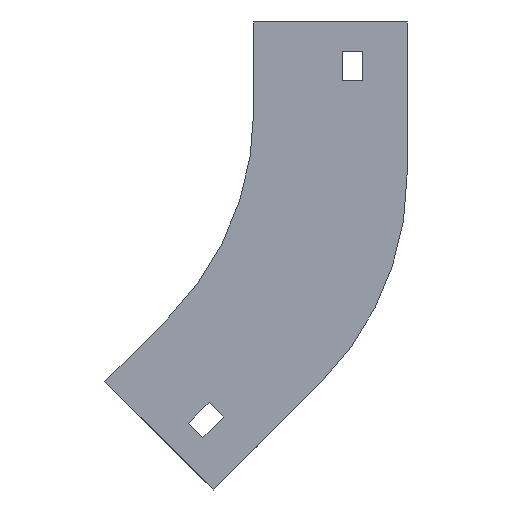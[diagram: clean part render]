
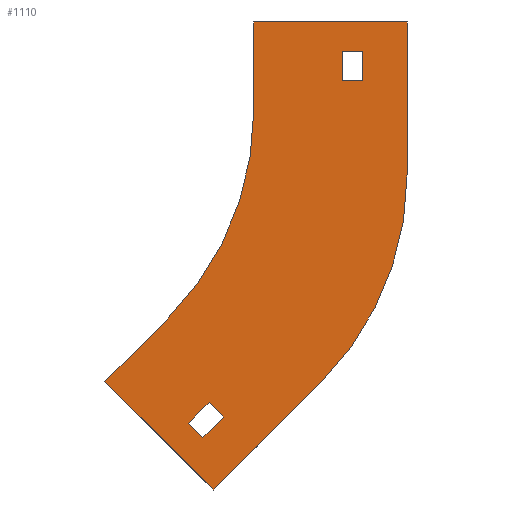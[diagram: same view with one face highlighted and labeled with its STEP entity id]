
A CAD part, left-side view. The second image highlights one B-rep face of the part: STEP entity #1110.
In plain terms, the highlighted planar face has unit normal (-1, 0, 0).
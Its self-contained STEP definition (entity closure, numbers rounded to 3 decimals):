
#13 = EDGE_CURVE ( 'NONE', #1086, #685, #455, .T. ) ;
#31 = CIRCLE ( 'NONE', #914, 100. ) ;
#33 = LINE ( 'NONE', #354, #1094 ) ;
#53 = DIRECTION ( 'NONE',  ( 0., 0.707, -0.707 ) ) ;
#55 = VERTEX_POINT ( 'NONE', #1254 ) ;
#57 = VECTOR ( 'NONE', #843, 1000. ) ;
#81 = CARTESIAN_POINT ( 'NONE',  ( -152., 10.197, -133.945 ) ) ;
#86 = VERTEX_POINT ( 'NONE', #1037 ) ;
#91 = CARTESIAN_POINT ( 'NONE',  ( -152., 29.289, -100.711 ) ) ;
#101 = ORIENTED_EDGE ( 'NONE', *, *, #773, .F. ) ;
#108 = EDGE_LOOP ( 'NONE', ( #577, #1243, #187, #1053 ) ) ;
#111 = CARTESIAN_POINT ( 'NONE',  ( -152., 48., -51.539 ) ) ;
#133 = AXIS2_PLACEMENT_3D ( 'NONE', #530, #282, #184 ) ;
#158 = CARTESIAN_POINT ( 'NONE',  ( -152., 22.218, -136.066 ) ) ;
#169 = CARTESIAN_POINT ( 'NONE',  ( -152., -22.711, -122.25 ) ) ;
#184 = DIRECTION ( 'NONE',  ( 0., 0., -1. ) ) ;
#186 = CARTESIAN_POINT ( 'NONE',  ( -152., -37., -10. ) ) ;
#187 = ORIENTED_EDGE ( 'NONE', *, *, #229, .T. ) ;
#191 = AXIS2_PLACEMENT_3D ( 'NONE', #1135, #793, #1218 ) ;
#196 = EDGE_LOOP ( 'NONE', ( #1318, #703, #943, #505 ) ) ;
#214 = CARTESIAN_POINT ( 'NONE',  ( -152., 13.733, -158.693 ) ) ;
#224 = DIRECTION ( 'NONE',  ( 0., 0., -1. ) ) ;
#229 = EDGE_CURVE ( 'NONE', #1255, #411, #1199, .T. ) ;
#253 = ORIENTED_EDGE ( 'NONE', *, *, #1134, .F. ) ;
#258 = CIRCLE ( 'NONE', #191, 100. ) ;
#259 = CARTESIAN_POINT ( 'NONE',  ( -152., 17.269, -141.016 ) ) ;
#282 = DIRECTION ( 'NONE',  ( 1., 0., 0. ) ) ;
#297 = VERTEX_POINT ( 'NONE', #901 ) ;
#317 = VECTOR ( 'NONE', #549, 1000. ) ;
#324 = CARTESIAN_POINT ( 'NONE',  ( -152., 22.218, -136.066 ) ) ;
#331 = DIRECTION ( 'NONE',  ( 0., -1., 0. ) ) ;
#351 = CARTESIAN_POINT ( 'NONE',  ( -152., -52., -51.539 ) ) ;
#354 = CARTESIAN_POINT ( 'NONE',  ( -152., 50.503, -121.924 ) ) ;
#369 = EDGE_CURVE ( 'NONE', #588, #616, #1012, .T. ) ;
#373 = ORIENTED_EDGE ( 'NONE', *, *, #613, .F. ) ;
#375 = VECTOR ( 'NONE', #544, 1000. ) ;
#376 = CARTESIAN_POINT ( 'NONE',  ( -152., -30., -10. ) ) ;
#411 = VERTEX_POINT ( 'NONE', #704 ) ;
#418 = ORIENTED_EDGE ( 'NONE', *, *, #719, .F. ) ;
#422 = DIRECTION ( 'NONE',  ( 0., 0.707, -0.707 ) ) ;
#430 = VERTEX_POINT ( 'NONE', #929 ) ;
#444 = EDGE_CURVE ( 'NONE', #685, #55, #1344, .T. ) ;
#446 = CARTESIAN_POINT ( 'NONE',  ( -152., -52., 0. ) ) ;
#455 = LINE ( 'NONE', #582, #884 ) ;
#461 = DIRECTION ( 'NONE',  ( 0., 0.707, 0.707 ) ) ;
#501 = FACE_OUTER_BOUND ( 'NONE', #545, .T. ) ;
#505 = ORIENTED_EDGE ( 'NONE', *, *, #1346, .F. ) ;
#518 = VECTOR ( 'NONE', #422, 1000. ) ;
#525 = EDGE_CURVE ( 'NONE', #411, #297, #1083, .T. ) ;
#530 = CARTESIAN_POINT ( 'NONE',  ( -152., 100., -30. ) ) ;
#537 = EDGE_CURVE ( 'NONE', #1173, #1080, #1403, .T. ) ;
#544 = DIRECTION ( 'NONE',  ( 0., -0.707, -0.707 ) ) ;
#545 = EDGE_LOOP ( 'NONE', ( #373, #101, #1139, #253, #418, #1050, #1223, #939 ) ) ;
#549 = DIRECTION ( 'NONE',  ( 0., -0.707, 0.707 ) ) ;
#577 = ORIENTED_EDGE ( 'NONE', *, *, #1240, .T. ) ;
#582 = CARTESIAN_POINT ( 'NONE',  ( -152., 15.147, -128.995 ) ) ;
#588 = VERTEX_POINT ( 'NONE', #1162 ) ;
#610 = LINE ( 'NONE', #376, #875 ) ;
#613 = EDGE_CURVE ( 'NONE', #430, #588, #654, .T. ) ;
#616 = VERTEX_POINT ( 'NONE', #1069 ) ;
#635 = EDGE_CURVE ( 'NONE', #616, #1173, #31, .T. ) ;
#654 = LINE ( 'NONE', #446, #1068 ) ;
#685 = VERTEX_POINT ( 'NONE', #1316 ) ;
#703 = ORIENTED_EDGE ( 'NONE', *, *, #444, .F. ) ;
#704 = CARTESIAN_POINT ( 'NONE',  ( -152., -37., -20. ) ) ;
#715 = VECTOR ( 'NONE', #802, 1000. ) ;
#719 = EDGE_CURVE ( 'NONE', #1080, #86, #33, .T. ) ;
#738 = LINE ( 'NONE', #853, #1078 ) ;
#765 = VERTEX_POINT ( 'NONE', #907 ) ;
#773 = EDGE_CURVE ( 'NONE', #765, #430, #810, .T. ) ;
#779 = EDGE_CURVE ( 'NONE', #1038, #765, #258, .T. ) ;
#793 = DIRECTION ( 'NONE',  ( -1., 0., 0. ) ) ;
#802 = DIRECTION ( 'NONE',  ( 0., 0., 1. ) ) ;
#810 = LINE ( 'NONE', #1011, #715 ) ;
#832 = FACE_BOUND ( 'NONE', #196, .T. ) ;
#843 = DIRECTION ( 'NONE',  ( 0., 1., 0. ) ) ;
#853 = CARTESIAN_POINT ( 'NONE',  ( -152., -30., -10. ) ) ;
#875 = VECTOR ( 'NONE', #1167, 1000. ) ;
#881 = VERTEX_POINT ( 'NONE', #259 ) ;
#884 = VECTOR ( 'NONE', #461, 1000. ) ;
#897 = VECTOR ( 'NONE', #53, 1000. ) ;
#901 = CARTESIAN_POINT ( 'NONE',  ( -152., -30., -20. ) ) ;
#907 = CARTESIAN_POINT ( 'NONE',  ( -152., 0., -30. ) ) ;
#914 = AXIS2_PLACEMENT_3D ( 'NONE', #111, #967, #1210 ) ;
#929 = CARTESIAN_POINT ( 'NONE',  ( -152., 0., 0. ) ) ;
#937 = EDGE_CURVE ( 'NONE', #55, #881, #1063, .T. ) ;
#939 = ORIENTED_EDGE ( 'NONE', *, *, #369, .F. ) ;
#943 = ORIENTED_EDGE ( 'NONE', *, *, #13, .F. ) ;
#952 = CARTESIAN_POINT ( 'NONE',  ( -152., -37., -10. ) ) ;
#967 = DIRECTION ( 'NONE',  ( 1., 0., 0. ) ) ;
#977 = CARTESIAN_POINT ( 'NONE',  ( -152., -30., -20. ) ) ;
#1001 = VECTOR ( 'NONE', #1102, 1000. ) ;
#1007 = CARTESIAN_POINT ( 'NONE',  ( -152., -30., -10. ) ) ;
#1011 = CARTESIAN_POINT ( 'NONE',  ( -152., 0., 0. ) ) ;
#1012 = LINE ( 'NONE', #351, #1085 ) ;
#1026 = DIRECTION ( 'NONE',  ( 0., 0.707, 0.707 ) ) ;
#1037 = CARTESIAN_POINT ( 'NONE',  ( -152., 50.503, -121.924 ) ) ;
#1038 = VERTEX_POINT ( 'NONE', #91 ) ;
#1046 = DIRECTION ( 'NONE',  ( 0., -1., 0. ) ) ;
#1050 = ORIENTED_EDGE ( 'NONE', *, *, #537, .F. ) ;
#1053 = ORIENTED_EDGE ( 'NONE', *, *, #525, .T. ) ;
#1063 = LINE ( 'NONE', #324, #375 ) ;
#1068 = VECTOR ( 'NONE', #331, 1000. ) ;
#1069 = CARTESIAN_POINT ( 'NONE',  ( -152., -52., -51.539 ) ) ;
#1078 = VECTOR ( 'NONE', #1046, 1000. ) ;
#1080 = VERTEX_POINT ( 'NONE', #1253 ) ;
#1083 = LINE ( 'NONE', #977, #57 ) ;
#1085 = VECTOR ( 'NONE', #224, 1000. ) ;
#1086 = VERTEX_POINT ( 'NONE', #81 ) ;
#1087 = LINE ( 'NONE', #1194, #1319 ) ;
#1089 = EDGE_CURVE ( 'NONE', #1340, #1255, #738, .T. ) ;
#1094 = VECTOR ( 'NONE', #1026, 1000. ) ;
#1095 = CARTESIAN_POINT ( 'NONE',  ( -152., 17.269, -141.016 ) ) ;
#1102 = DIRECTION ( 'NONE',  ( 0., 0., -1. ) ) ;
#1110 = ADVANCED_FACE ( 'NONE', ( #501, #1178, #832 ), #1258, .F. ) ;
#1134 = EDGE_CURVE ( 'NONE', #86, #1038, #1087, .T. ) ;
#1135 = CARTESIAN_POINT ( 'NONE',  ( -152., 100., -30. ) ) ;
#1139 = ORIENTED_EDGE ( 'NONE', *, *, #779, .F. ) ;
#1162 = CARTESIAN_POINT ( 'NONE',  ( -152., -52., 0. ) ) ;
#1167 = DIRECTION ( 'NONE',  ( 0., 0., 1. ) ) ;
#1173 = VERTEX_POINT ( 'NONE', #169 ) ;
#1178 = FACE_BOUND ( 'NONE', #108, .T. ) ;
#1194 = CARTESIAN_POINT ( 'NONE',  ( -152., 29.289, -100.711 ) ) ;
#1199 = LINE ( 'NONE', #186, #1001 ) ;
#1200 = DIRECTION ( 'NONE',  ( 0., -0.707, 0.707 ) ) ;
#1210 = DIRECTION ( 'NONE',  ( 0., 0., 1. ) ) ;
#1218 = DIRECTION ( 'NONE',  ( 0., 0., -1. ) ) ;
#1220 = LINE ( 'NONE', #1095, #317 ) ;
#1223 = ORIENTED_EDGE ( 'NONE', *, *, #635, .F. ) ;
#1240 = EDGE_CURVE ( 'NONE', #297, #1340, #610, .T. ) ;
#1243 = ORIENTED_EDGE ( 'NONE', *, *, #1089, .T. ) ;
#1253 = CARTESIAN_POINT ( 'NONE',  ( -152., 13.733, -158.693 ) ) ;
#1254 = CARTESIAN_POINT ( 'NONE',  ( -152., 22.218, -136.066 ) ) ;
#1255 = VERTEX_POINT ( 'NONE', #952 ) ;
#1258 = PLANE ( 'NONE',  #133 ) ;
#1316 = CARTESIAN_POINT ( 'NONE',  ( -152., 15.147, -128.995 ) ) ;
#1318 = ORIENTED_EDGE ( 'NONE', *, *, #937, .F. ) ;
#1319 = VECTOR ( 'NONE', #1200, 1000. ) ;
#1340 = VERTEX_POINT ( 'NONE', #1007 ) ;
#1344 = LINE ( 'NONE', #158, #897 ) ;
#1346 = EDGE_CURVE ( 'NONE', #881, #1086, #1220, .T. ) ;
#1403 = LINE ( 'NONE', #214, #518 ) ;
